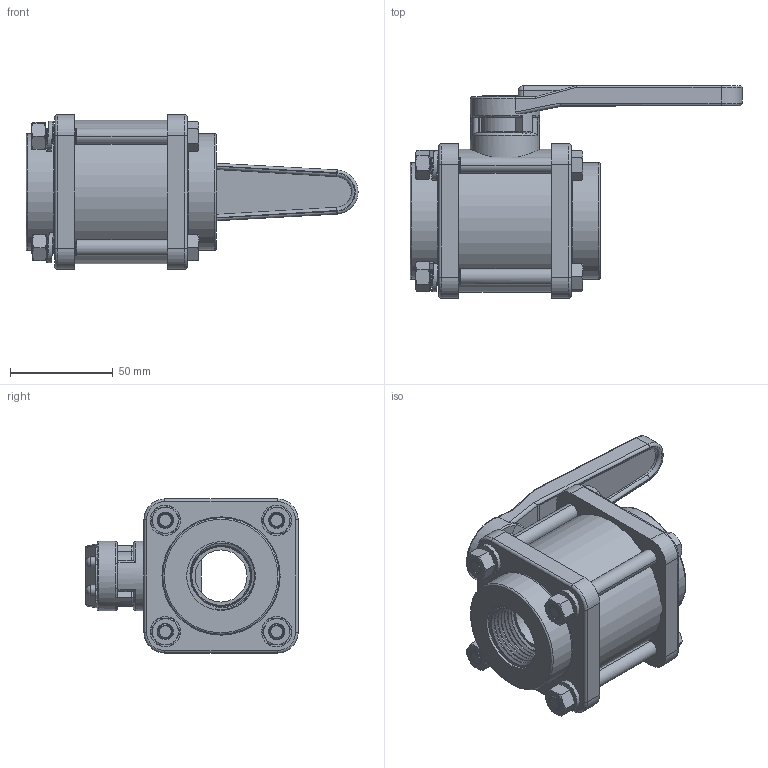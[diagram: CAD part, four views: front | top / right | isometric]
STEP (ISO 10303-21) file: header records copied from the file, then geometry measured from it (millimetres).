
FILE_DESCRIPTION(/* description */ ('Alibre Inc.'),/* implementation_level */ '2;1');
FILE_NAME(/* name */ 'export0',/* time_stamp */ '2017-05-17T11:25:21-04:00',/* author */ (''),/* organization */ (''),/* preprocessor_version */ 'ST-DEVELOPER v14',/* originating_system */ 'Alibre',/* authorisation */ '');
FILE_SCHEMA (('CONFIG_CONTROL_DESIGN'));
Products named in the file (14): ID_1; ID_2; 91770A194; 91236A595; 91845A115; 92147A030
Bounding box: 161.93 x 103.52 x 75.18 mm (x, y, z)
Volume: 332055.5 mm3; surface area: 111477.7 mm2
Topology: 24 solids, 24 shells, 978 faces, 2490 edges, 1597 vertices
Faces by surface type: cylinder 356, plane 284, cone 161, bspline 118, torus 52, sphere 7
Full cylindrical faces by diameter (mm): 2.819 x1, 4.953 x1, 8.128 x8, 9.144 x1, 16.256 x1, 18.542 x1, 19.05 x2, 22.098 x1, 22.225 x1, 25.4 x5, 32.512 x4, 33.528 x2, 33.782 x1, 34.036 x1, 52.832 x1, 56.896 x2, 57.15 x2, 62.23 x2, 62.992 x2, 64.77 x2, 69.85 x1
Entity records: 45807 total; most frequent: CARTESIAN_POINT 31431, ORIENTED_EDGE 2952, DIRECTION 2034, EDGE_CURVE 1476, VERTEX_POINT 973, AXIS2_PLACEMENT_3D 816, FACE_BOUND 693, EDGE_LOOP 691
